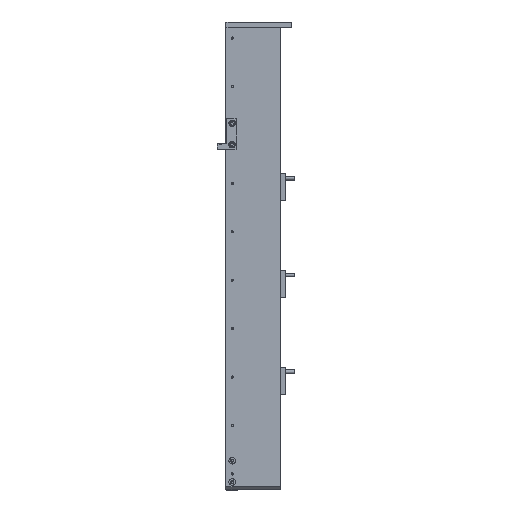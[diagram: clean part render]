
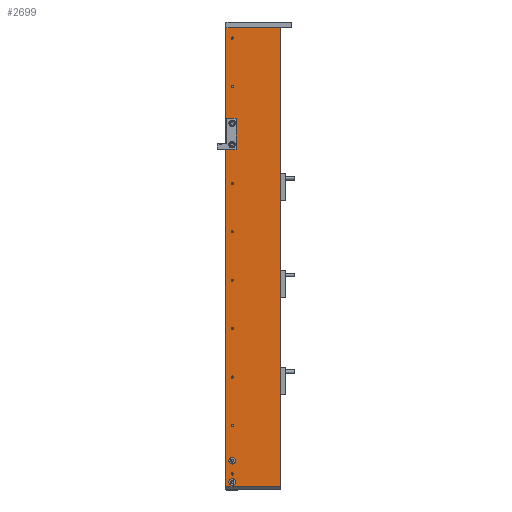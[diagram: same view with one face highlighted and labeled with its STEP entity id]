
A CAD part, left-side view. The second image highlights one B-rep face of the part: STEP entity #2699.
In plain terms, the highlighted planar face has unit normal (-1, 0, 0).
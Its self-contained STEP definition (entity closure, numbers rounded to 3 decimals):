
#2699=ADVANCED_FACE('',(#6507,#6508,#6509,#6510,#6511,#6512,#6513,#6514,
#6515,#6516,#6517,#6518,#6519,#6520,#6521),#3607,.F.);
#3607=PLANE('',#16180);
#4244=LINE('',#22187,#5388);
#4245=LINE('',#22190,#5389);
#4246=LINE('',#22192,#5390);
#4247=LINE('',#22194,#5391);
#5388=VECTOR('',#17979,1.);
#5389=VECTOR('',#17980,1.);
#5390=VECTOR('',#17981,1.);
#5391=VECTOR('',#17982,1.);
#6507=FACE_BOUND('',#7527,.T.);
#6508=FACE_BOUND('',#7528,.T.);
#6509=FACE_BOUND('',#7529,.T.);
#6510=FACE_BOUND('',#7530,.T.);
#6511=FACE_BOUND('',#7531,.T.);
#6512=FACE_BOUND('',#7532,.T.);
#6513=FACE_BOUND('',#7533,.T.);
#6514=FACE_BOUND('',#7534,.T.);
#6515=FACE_BOUND('',#7535,.T.);
#6516=FACE_BOUND('',#7536,.T.);
#6517=FACE_BOUND('',#7537,.T.);
#6518=FACE_BOUND('',#7538,.T.);
#6519=FACE_BOUND('',#7539,.T.);
#6520=FACE_BOUND('',#7540,.T.);
#6521=FACE_BOUND('',#7541,.T.);
#7527=EDGE_LOOP('',(#9180));
#7528=EDGE_LOOP('',(#9181));
#7529=EDGE_LOOP('',(#9182));
#7530=EDGE_LOOP('',(#9183));
#7531=EDGE_LOOP('',(#9184));
#7532=EDGE_LOOP('',(#9185));
#7533=EDGE_LOOP('',(#9186));
#7534=EDGE_LOOP('',(#9187));
#7535=EDGE_LOOP('',(#9188));
#7536=EDGE_LOOP('',(#9189));
#7537=EDGE_LOOP('',(#9190));
#7538=EDGE_LOOP('',(#9191));
#7539=EDGE_LOOP('',(#9192));
#7540=EDGE_LOOP('',(#9193));
#7541=EDGE_LOOP('',(#9194,#9195,#9196,#9197));
#9180=ORIENTED_EDGE('',*,*,#13840,.T.);
#9181=ORIENTED_EDGE('',*,*,#13841,.T.);
#9182=ORIENTED_EDGE('',*,*,#13842,.T.);
#9183=ORIENTED_EDGE('',*,*,#13843,.T.);
#9184=ORIENTED_EDGE('',*,*,#13844,.T.);
#9185=ORIENTED_EDGE('',*,*,#13845,.T.);
#9186=ORIENTED_EDGE('',*,*,#13846,.T.);
#9187=ORIENTED_EDGE('',*,*,#13847,.T.);
#9188=ORIENTED_EDGE('',*,*,#13848,.T.);
#9189=ORIENTED_EDGE('',*,*,#13849,.T.);
#9190=ORIENTED_EDGE('',*,*,#13850,.T.);
#9191=ORIENTED_EDGE('',*,*,#13851,.T.);
#9192=ORIENTED_EDGE('',*,*,#13852,.T.);
#9193=ORIENTED_EDGE('',*,*,#13853,.T.);
#9194=ORIENTED_EDGE('',*,*,#13854,.T.);
#9195=ORIENTED_EDGE('',*,*,#13855,.T.);
#9196=ORIENTED_EDGE('',*,*,#13856,.T.);
#9197=ORIENTED_EDGE('',*,*,#13857,.T.);
#12496=VERTEX_POINT('',#22160);
#12497=VERTEX_POINT('',#22162);
#12498=VERTEX_POINT('',#22164);
#12499=VERTEX_POINT('',#22166);
#12500=VERTEX_POINT('',#22168);
#12501=VERTEX_POINT('',#22170);
#12502=VERTEX_POINT('',#22172);
#12503=VERTEX_POINT('',#22174);
#12504=VERTEX_POINT('',#22176);
#12505=VERTEX_POINT('',#22178);
#12506=VERTEX_POINT('',#22180);
#12507=VERTEX_POINT('',#22182);
#12508=VERTEX_POINT('',#22184);
#12509=VERTEX_POINT('',#22186);
#12510=VERTEX_POINT('',#22188);
#12511=VERTEX_POINT('',#22189);
#12512=VERTEX_POINT('',#22191);
#12513=VERTEX_POINT('',#22193);
#13840=EDGE_CURVE('',#12496,#12496,#15476,.T.);
#13841=EDGE_CURVE('',#12497,#12497,#15477,.T.);
#13842=EDGE_CURVE('',#12498,#12498,#15478,.T.);
#13843=EDGE_CURVE('',#12499,#12499,#15479,.T.);
#13844=EDGE_CURVE('',#12500,#12500,#15480,.T.);
#13845=EDGE_CURVE('',#12501,#12501,#15481,.T.);
#13846=EDGE_CURVE('',#12502,#12502,#15482,.T.);
#13847=EDGE_CURVE('',#12503,#12503,#15483,.T.);
#13848=EDGE_CURVE('',#12504,#12504,#15484,.T.);
#13849=EDGE_CURVE('',#12505,#12505,#15485,.T.);
#13850=EDGE_CURVE('',#12506,#12506,#15486,.T.);
#13851=EDGE_CURVE('',#12507,#12507,#15487,.T.);
#13852=EDGE_CURVE('',#12508,#12508,#15488,.T.);
#13853=EDGE_CURVE('',#12509,#12509,#15489,.T.);
#13854=EDGE_CURVE('',#12510,#12511,#4244,.T.);
#13855=EDGE_CURVE('',#12511,#12512,#4245,.T.);
#13856=EDGE_CURVE('',#12512,#12513,#4246,.T.);
#13857=EDGE_CURVE('',#12513,#12510,#4247,.T.);
#15476=CIRCLE('',#16166,3.4);
#15477=CIRCLE('',#16167,3.4);
#15478=CIRCLE('',#16168,3.4);
#15479=CIRCLE('',#16169,3.4);
#15480=CIRCLE('',#16170,2.5);
#15481=CIRCLE('',#16171,2.5);
#15482=CIRCLE('',#16172,2.5);
#15483=CIRCLE('',#16173,2.5);
#15484=CIRCLE('',#16174,2.5);
#15485=CIRCLE('',#16175,2.5);
#15486=CIRCLE('',#16176,2.5);
#15487=CIRCLE('',#16177,2.5);
#15488=CIRCLE('',#16178,2.5);
#15489=CIRCLE('',#16179,2.5);
#16166=AXIS2_PLACEMENT_3D('',#22159,#17951,#17952);
#16167=AXIS2_PLACEMENT_3D('',#22161,#17953,#17954);
#16168=AXIS2_PLACEMENT_3D('',#22163,#17955,#17956);
#16169=AXIS2_PLACEMENT_3D('',#22165,#17957,#17958);
#16170=AXIS2_PLACEMENT_3D('',#22167,#17959,#17960);
#16171=AXIS2_PLACEMENT_3D('',#22169,#17961,#17962);
#16172=AXIS2_PLACEMENT_3D('',#22171,#17963,#17964);
#16173=AXIS2_PLACEMENT_3D('',#22173,#17965,#17966);
#16174=AXIS2_PLACEMENT_3D('',#22175,#17967,#17968);
#16175=AXIS2_PLACEMENT_3D('',#22177,#17969,#17970);
#16176=AXIS2_PLACEMENT_3D('',#22179,#17971,#17972);
#16177=AXIS2_PLACEMENT_3D('',#22181,#17973,#17974);
#16178=AXIS2_PLACEMENT_3D('',#22183,#17975,#17976);
#16179=AXIS2_PLACEMENT_3D('',#22185,#17977,#17978);
#16180=AXIS2_PLACEMENT_3D('',#22195,#17983,#17984);
#17951=DIRECTION('',(1.,0.,0.));
#17952=DIRECTION('',(0.,-1.,0.));
#17953=DIRECTION('',(1.,0.,0.));
#17954=DIRECTION('',(0.,-1.,0.));
#17955=DIRECTION('',(1.,0.,0.));
#17956=DIRECTION('',(0.,-1.,0.));
#17957=DIRECTION('',(1.,0.,0.));
#17958=DIRECTION('',(0.,-1.,0.));
#17959=DIRECTION('',(1.,0.,0.));
#17960=DIRECTION('',(0.,-1.,0.));
#17961=DIRECTION('',(1.,0.,0.));
#17962=DIRECTION('',(0.,-1.,0.));
#17963=DIRECTION('',(1.,0.,0.));
#17964=DIRECTION('',(0.,-1.,0.));
#17965=DIRECTION('',(1.,0.,0.));
#17966=DIRECTION('',(0.,-1.,0.));
#17967=DIRECTION('',(1.,0.,0.));
#17968=DIRECTION('',(0.,-1.,0.));
#17969=DIRECTION('',(1.,0.,0.));
#17970=DIRECTION('',(0.,-1.,0.));
#17971=DIRECTION('',(1.,0.,0.));
#17972=DIRECTION('',(0.,-1.,0.));
#17973=DIRECTION('',(1.,0.,0.));
#17974=DIRECTION('',(0.,-1.,0.));
#17975=DIRECTION('',(1.,0.,0.));
#17976=DIRECTION('',(0.,-1.,0.));
#17977=DIRECTION('',(1.,0.,0.));
#17978=DIRECTION('',(0.,-1.,0.));
#17979=DIRECTION('',(0.,0.,-1.));
#17980=DIRECTION('',(0.,-1.,0.));
#17981=DIRECTION('',(0.,0.,1.));
#17982=DIRECTION('',(0.,1.,0.));
#17983=DIRECTION('',(1.,0.,0.));
#17984=DIRECTION('',(0.,-1.,0.));
#22159=CARTESIAN_POINT('',(-456.,124.,108.744));
#22160=CARTESIAN_POINT('',(-456.,120.6,108.744));
#22161=CARTESIAN_POINT('',(-456.,124.,163.744));
#22162=CARTESIAN_POINT('',(-456.,120.6,163.744));
#22163=CARTESIAN_POINT('',(-456.,124.,-762.256));
#22164=CARTESIAN_POINT('',(-456.,120.6,-762.256));
#22165=CARTESIAN_POINT('',(-456.,124.,-707.256));
#22166=CARTESIAN_POINT('',(-456.,120.6,-707.256));
#22167=CARTESIAN_POINT('',(-456.,124.,383.744));
#22168=CARTESIAN_POINT('',(-456.,121.5,383.744));
#22169=CARTESIAN_POINT('',(-456.,124.,258.744));
#22170=CARTESIAN_POINT('',(-456.,121.5,258.744));
#22171=CARTESIAN_POINT('',(-456.,124.,133.744));
#22172=CARTESIAN_POINT('',(-456.,121.5,133.744));
#22173=CARTESIAN_POINT('',(-456.,124.,8.744));
#22174=CARTESIAN_POINT('',(-456.,121.5,8.744));
#22175=CARTESIAN_POINT('',(-456.,124.,-116.256));
#22176=CARTESIAN_POINT('',(-456.,121.5,-116.256));
#22177=CARTESIAN_POINT('',(-456.,124.,-241.256));
#22178=CARTESIAN_POINT('',(-456.,121.5,-241.256));
#22179=CARTESIAN_POINT('',(-456.,124.,-366.256));
#22180=CARTESIAN_POINT('',(-456.,121.5,-366.256));
#22181=CARTESIAN_POINT('',(-456.,124.,-491.256));
#22182=CARTESIAN_POINT('',(-456.,121.5,-491.256));
#22183=CARTESIAN_POINT('',(-456.,124.,-616.256));
#22184=CARTESIAN_POINT('',(-456.,121.5,-616.256));
#22185=CARTESIAN_POINT('',(-456.,124.,-741.256));
#22186=CARTESIAN_POINT('',(-456.,121.5,-741.256));
#22187=CARTESIAN_POINT('',(-456.,140.,407.244));
#22188=CARTESIAN_POINT('',(-456.,140.,410.244));
#22189=CARTESIAN_POINT('',(-456.,140.,-774.756));
#22190=CARTESIAN_POINT('',(-456.,0.,-774.756));
#22191=CARTESIAN_POINT('',(-456.,0.,-774.756));
#22192=CARTESIAN_POINT('',(-456.,0.,-672.756));
#22193=CARTESIAN_POINT('',(-456.,0.,410.244));
#22194=CARTESIAN_POINT('',(-456.,0.,410.244));
#22195=CARTESIAN_POINT('',(-456.,0.,-672.756));
